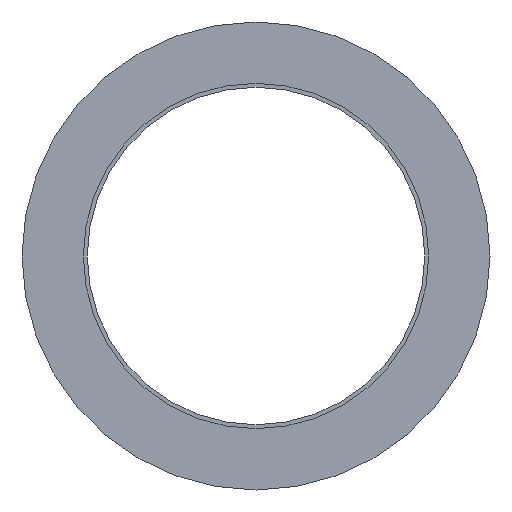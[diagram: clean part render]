
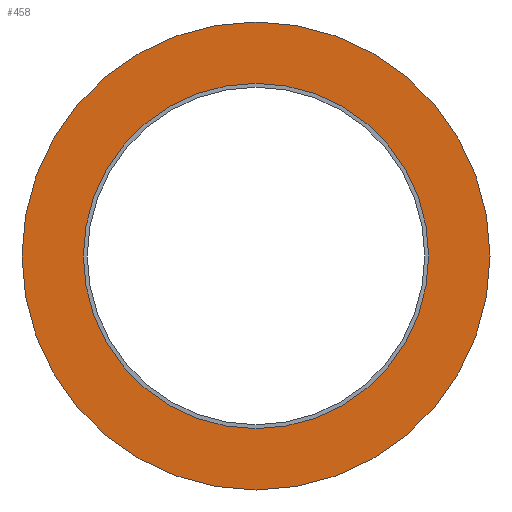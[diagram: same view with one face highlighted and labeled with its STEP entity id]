
A CAD part, front view. The second image highlights one B-rep face of the part: STEP entity #458.
In plain terms, the highlighted planar face has unit normal (0, -1, 0).
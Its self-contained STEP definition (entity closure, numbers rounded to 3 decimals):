
#26 = DIRECTION ( 'NONE',  ( 0., 1., 0. ) ) ;
#72 = ORIENTED_EDGE ( 'NONE', *, *, #565, .T. ) ;
#86 = DIRECTION ( 'NONE',  ( 0., 0., -1. ) ) ;
#101 = CIRCLE ( 'NONE', #461, 35.05 ) ;
#110 = DIRECTION ( 'NONE',  ( 0., -1., 0. ) ) ;
#115 = AXIS2_PLACEMENT_3D ( 'NONE', #399, #541, #309 ) ;
#131 = AXIS2_PLACEMENT_3D ( 'NONE', #308, #110, #494 ) ;
#140 = CIRCLE ( 'NONE', #354, 47.5 ) ;
#207 = VERTEX_POINT ( 'NONE', #488 ) ;
#215 = DIRECTION ( 'NONE',  ( 0., -1., 0. ) ) ;
#231 = CARTESIAN_POINT ( 'NONE',  ( 0., 0., 0. ) ) ;
#243 = ORIENTED_EDGE ( 'NONE', *, *, #311, .T. ) ;
#280 = DIRECTION ( 'NONE',  ( 0., -1., 0. ) ) ;
#300 = CIRCLE ( 'NONE', #131, 47.5 ) ;
#308 = CARTESIAN_POINT ( 'NONE',  ( 0., 0., 0. ) ) ;
#309 = DIRECTION ( 'NONE',  ( 0., 0., -1. ) ) ;
#311 = EDGE_CURVE ( 'NONE', #380, #432, #300, .T. ) ;
#313 = CARTESIAN_POINT ( 'NONE',  ( 0., 0., 47.5 ) ) ;
#322 = PLANE ( 'NONE',  #505 ) ;
#354 = AXIS2_PLACEMENT_3D ( 'NONE', #231, #280, #86 ) ;
#360 = DIRECTION ( 'NONE',  ( 0., 0., 1. ) ) ;
#370 = ORIENTED_EDGE ( 'NONE', *, *, #390, .F. ) ;
#380 = VERTEX_POINT ( 'NONE', #448 ) ;
#390 = EDGE_CURVE ( 'NONE', #207, #504, #573, .T. ) ;
#399 = CARTESIAN_POINT ( 'NONE',  ( 0., 0., 0. ) ) ;
#432 = VERTEX_POINT ( 'NONE', #313 ) ;
#441 = EDGE_LOOP ( 'NONE', ( #243, #72 ) ) ;
#442 = EDGE_CURVE ( 'NONE', #504, #207, #101, .T. ) ;
#443 = FACE_OUTER_BOUND ( 'NONE', #441, .T. ) ;
#448 = CARTESIAN_POINT ( 'NONE',  ( 0., 0., -47.5 ) ) ;
#458 = ADVANCED_FACE ( 'NONE', ( #593, #443 ), #322, .F. ) ;
#461 = AXIS2_PLACEMENT_3D ( 'NONE', #590, #215, #462 ) ;
#462 = DIRECTION ( 'NONE',  ( 0., 0., -1. ) ) ;
#487 = EDGE_LOOP ( 'NONE', ( #370, #512 ) ) ;
#488 = CARTESIAN_POINT ( 'NONE',  ( 0., 0., -35.05 ) ) ;
#494 = DIRECTION ( 'NONE',  ( 0., 0., -1. ) ) ;
#500 = CARTESIAN_POINT ( 'NONE',  ( 0., 0., 35.05 ) ) ;
#504 = VERTEX_POINT ( 'NONE', #500 ) ;
#505 = AXIS2_PLACEMENT_3D ( 'NONE', #598, #26, #360 ) ;
#512 = ORIENTED_EDGE ( 'NONE', *, *, #442, .F. ) ;
#541 = DIRECTION ( 'NONE',  ( 0., -1., 0. ) ) ;
#565 = EDGE_CURVE ( 'NONE', #432, #380, #140, .T. ) ;
#573 = CIRCLE ( 'NONE', #115, 35.05 ) ;
#590 = CARTESIAN_POINT ( 'NONE',  ( 0., 0., 0. ) ) ;
#593 = FACE_BOUND ( 'NONE', #487, .T. ) ;
#598 = CARTESIAN_POINT ( 'NONE',  ( 0., 0., 47.5 ) ) ;
